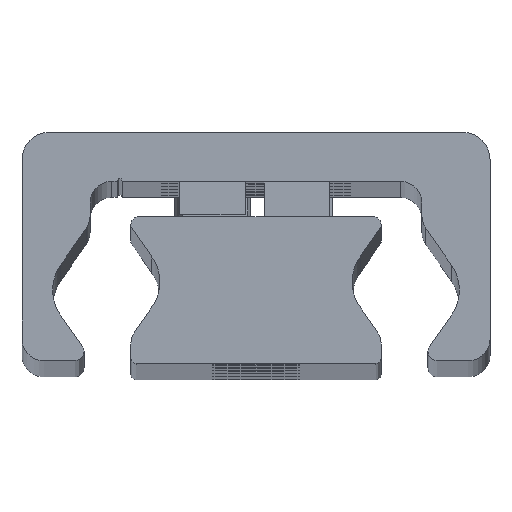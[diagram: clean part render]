
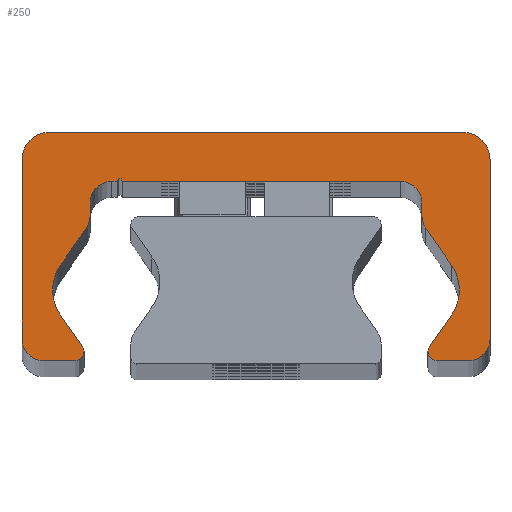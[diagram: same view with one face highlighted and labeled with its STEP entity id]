
A CAD part, top view. The second image highlights one B-rep face of the part: STEP entity #250.
In plain terms, the highlighted planar face has unit normal (0, 0, 1).
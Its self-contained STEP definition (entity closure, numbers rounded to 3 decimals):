
#250=ADVANCED_FACE('',(#672),#673,.T.);
#672=FACE_OUTER_BOUND('',#1095,.T.);
#673=PLANE('',#1096);
#1095=EDGE_LOOP('',(#2530,#2531,#2532,#2533,#2534,#2535,#2536,#2537,#2538,#2539,#2540,#2541,#2542,#2543,#2544,#2545,#2546,#2547,#2548,#2549,#2550,#2551,#2552,#2553,#2554,#2555,#2556,#2557,#2558,#2559));
#1096=AXIS2_PLACEMENT_3D('',#2560,#2561,#2562);
#2530=ORIENTED_EDGE('',*,*,#2849,.F.);
#2531=ORIENTED_EDGE('',*,*,#3062,.F.);
#2532=ORIENTED_EDGE('',*,*,#2835,.F.);
#2533=ORIENTED_EDGE('',*,*,#3061,.F.);
#2534=ORIENTED_EDGE('',*,*,#3057,.F.);
#2535=ORIENTED_EDGE('',*,*,#3054,.F.);
#2536=ORIENTED_EDGE('',*,*,#3051,.F.);
#2537=ORIENTED_EDGE('',*,*,#3048,.F.);
#2538=ORIENTED_EDGE('',*,*,#3045,.F.);
#2539=ORIENTED_EDGE('',*,*,#3042,.F.);
#2540=ORIENTED_EDGE('',*,*,#3039,.F.);
#2541=ORIENTED_EDGE('',*,*,#3036,.F.);
#2542=ORIENTED_EDGE('',*,*,#3033,.F.);
#2543=ORIENTED_EDGE('',*,*,#3030,.F.);
#2544=ORIENTED_EDGE('',*,*,#2841,.F.);
#2545=ORIENTED_EDGE('',*,*,#3028,.F.);
#2546=ORIENTED_EDGE('',*,*,#2843,.F.);
#2547=ORIENTED_EDGE('',*,*,#3027,.F.);
#2548=ORIENTED_EDGE('',*,*,#3023,.F.);
#2549=ORIENTED_EDGE('',*,*,#3020,.F.);
#2550=ORIENTED_EDGE('',*,*,#3017,.F.);
#2551=ORIENTED_EDGE('',*,*,#3014,.F.);
#2552=ORIENTED_EDGE('',*,*,#3011,.F.);
#2553=ORIENTED_EDGE('',*,*,#3008,.F.);
#2554=ORIENTED_EDGE('',*,*,#3005,.F.);
#2555=ORIENTED_EDGE('',*,*,#3002,.F.);
#2556=ORIENTED_EDGE('',*,*,#2999,.F.);
#2557=ORIENTED_EDGE('',*,*,#2996,.F.);
#2558=ORIENTED_EDGE('',*,*,#2993,.F.);
#2559=ORIENTED_EDGE('',*,*,#2990,.F.);
#2560=CARTESIAN_POINT('',(-0.023,14.187,417.0));
#2561=DIRECTION('',(0.0,0.0,1.0));
#2562=DIRECTION('',(1.0,0.0,0.0));
#2835=EDGE_CURVE('',#3446,#3449,#3450,.T.);
#2841=EDGE_CURVE('',#3459,#3455,#3461,.T.);
#2843=EDGE_CURVE('',#3462,#3465,#3466,.T.);
#2849=EDGE_CURVE('',#3475,#3471,#3477,.T.);
#2990=EDGE_CURVE('',#3471,#3704,#3705,.T.);
#2993=EDGE_CURVE('',#3704,#3709,#3710,.T.);
#2996=EDGE_CURVE('',#3709,#3714,#3715,.T.);
#2999=EDGE_CURVE('',#3714,#3719,#3720,.T.);
#3002=EDGE_CURVE('',#3719,#3724,#3725,.T.);
#3005=EDGE_CURVE('',#3724,#3729,#3730,.T.);
#3008=EDGE_CURVE('',#3729,#3734,#3735,.T.);
#3011=EDGE_CURVE('',#3734,#3739,#3740,.T.);
#3014=EDGE_CURVE('',#3739,#3744,#3745,.T.);
#3017=EDGE_CURVE('',#3744,#3749,#3750,.T.);
#3020=EDGE_CURVE('',#3749,#3754,#3755,.T.);
#3023=EDGE_CURVE('',#3754,#3759,#3760,.T.);
#3027=EDGE_CURVE('',#3759,#3462,#3765,.T.);
#3028=EDGE_CURVE('',#3465,#3459,#3766,.T.);
#3030=EDGE_CURVE('',#3455,#3768,#3769,.T.);
#3033=EDGE_CURVE('',#3768,#3773,#3774,.T.);
#3036=EDGE_CURVE('',#3773,#3778,#3779,.T.);
#3039=EDGE_CURVE('',#3778,#3783,#3784,.T.);
#3042=EDGE_CURVE('',#3783,#3788,#3789,.T.);
#3045=EDGE_CURVE('',#3788,#3793,#3794,.T.);
#3048=EDGE_CURVE('',#3793,#3798,#3799,.T.);
#3051=EDGE_CURVE('',#3798,#3803,#3804,.T.);
#3054=EDGE_CURVE('',#3803,#3808,#3809,.T.);
#3057=EDGE_CURVE('',#3808,#3813,#3814,.T.);
#3061=EDGE_CURVE('',#3813,#3446,#3819,.T.);
#3062=EDGE_CURVE('',#3449,#3475,#3820,.T.);
#3446=VERTEX_POINT('',#4330);
#3449=VERTEX_POINT('',#4334);
#3450=CIRCLE('',#4335,0.85);
#3455=VERTEX_POINT('',#4341);
#3459=VERTEX_POINT('',#4346);
#3461=CIRCLE('',#4349,0.85);
#3462=VERTEX_POINT('',#4350);
#3465=VERTEX_POINT('',#4354);
#3466=CIRCLE('',#4355,4.);
#3471=VERTEX_POINT('',#4361);
#3475=VERTEX_POINT('',#4366);
#3477=CIRCLE('',#4369,4.);
#3704=VERTEX_POINT('',#4666);
#3705=CIRCLE('',#4667,4.);
#3709=VERTEX_POINT('',#4672);
#3710=LINE('',#4673,#4674);
#3714=VERTEX_POINT('',#4680);
#3715=CIRCLE('',#4681,2.);
#3719=VERTEX_POINT('',#4686);
#3720=LINE('',#4687,#4688);
#3724=VERTEX_POINT('',#4694);
#3725=CIRCLE('',#4695,2.0);
#3729=VERTEX_POINT('',#4700);
#3730=LINE('',#4701,#4702);
#3734=VERTEX_POINT('',#4708);
#3735=CIRCLE('',#4709,0.25);
#3739=VERTEX_POINT('',#4714);
#3740=LINE('',#4715,#4716);
#3744=VERTEX_POINT('',#4722);
#3745=CIRCLE('',#4723,2.0);
#3749=VERTEX_POINT('',#4728);
#3750=LINE('',#4729,#4730);
#3754=VERTEX_POINT('',#4736);
#3755=CIRCLE('',#4737,2.0);
#3759=VERTEX_POINT('',#4742);
#3760=LINE('',#4743,#4744);
#3765=CIRCLE('',#4751,4.);
#3766=LINE('',#4752,#4753);
#3768=VERTEX_POINT('',#4756);
#3769=CIRCLE('',#4757,0.85);
#3773=VERTEX_POINT('',#4762);
#3774=LINE('',#4763,#4764);
#3778=VERTEX_POINT('',#4770);
#3779=CIRCLE('',#4771,2.);
#3783=VERTEX_POINT('',#4776);
#3784=LINE('',#4777,#4778);
#3788=VERTEX_POINT('',#4784);
#3789=CIRCLE('',#4785,2.5);
#3793=VERTEX_POINT('',#4790);
#3794=LINE('',#4791,#4792);
#3798=VERTEX_POINT('',#4798);
#3799=CIRCLE('',#4799,2.5);
#3803=VERTEX_POINT('',#4804);
#3804=LINE('',#4805,#4806);
#3808=VERTEX_POINT('',#4812);
#3809=CIRCLE('',#4813,2.);
#3813=VERTEX_POINT('',#4818);
#3814=LINE('',#4819,#4820);
#3819=CIRCLE('',#4827,0.85);
#3820=LINE('',#4828,#4829);
#4330=CARTESIAN_POINT('',(15.8,1.859,417.0));
#4334=CARTESIAN_POINT('',(15.922,2.298,417.0));
#4335=AXIS2_PLACEMENT_3D('',#5295,#5296,#5297);
#4341=CARTESIAN_POINT('',(-15.8,1.859,417.0));
#4346=CARTESIAN_POINT('',(-15.922,2.298,417.0));
#4349=AXIS2_PLACEMENT_3D('',#5307,#5308,#5309);
#4350=CARTESIAN_POINT('',(-18.688,7.509,417.0));
#4354=CARTESIAN_POINT('',(-17.964,5.214,417.0));
#4355=AXIS2_PLACEMENT_3D('',#5311,#5312,#5313);
#4361=CARTESIAN_POINT('',(18.688,7.509,417.0));
#4366=CARTESIAN_POINT('',(17.964,5.214,417.0));
#4369=AXIS2_PLACEMENT_3D('',#5323,#5324,#5325);
#4666=CARTESIAN_POINT('',(17.964,9.803,417.0));
#4667=AXIS2_PLACEMENT_3D('',#5606,#5607,#5608);
#4672=CARTESIAN_POINT('',(15.612,13.163,417.0));
#4673=CARTESIAN_POINT('',(15.612,13.163,417.0));
#4674=VECTOR('',#5613,1.0);
#4680=CARTESIAN_POINT('',(15.25,14.31,417.0));
#4681=AXIS2_PLACEMENT_3D('',#5616,#5617,#5618);
#4686=CARTESIAN_POINT('',(15.25,15.509,417.0));
#4687=CARTESIAN_POINT('',(15.25,15.509,417.0));
#4688=VECTOR('',#5623,1.0);
#4694=CARTESIAN_POINT('',(13.25,17.509,417.0));
#4695=AXIS2_PLACEMENT_3D('',#5626,#5627,#5628);
#4700=CARTESIAN_POINT('',(-12.25,17.509,417.0));
#4701=CARTESIAN_POINT('',(-12.25,17.509,417.0));
#4702=VECTOR('',#5633,1.0);
#4708=CARTESIAN_POINT('',(-12.75,17.509,417.0));
#4709=AXIS2_PLACEMENT_3D('',#5636,#5637,#5638);
#4714=CARTESIAN_POINT('',(-13.25,17.509,417.0));
#4715=CARTESIAN_POINT('',(-13.25,17.509,417.0));
#4716=VECTOR('',#5643,1.0);
#4722=CARTESIAN_POINT('',(-15.25,15.509,417.0));
#4723=AXIS2_PLACEMENT_3D('',#5646,#5647,#5648);
#4728=CARTESIAN_POINT('',(-15.25,14.31,417.0));
#4729=CARTESIAN_POINT('',(-15.25,14.31,417.0));
#4730=VECTOR('',#5653,1.0);
#4736=CARTESIAN_POINT('',(-15.612,13.163,417.0));
#4737=AXIS2_PLACEMENT_3D('',#5656,#5657,#5658);
#4742=CARTESIAN_POINT('',(-17.964,9.803,417.0));
#4743=CARTESIAN_POINT('',(-17.964,9.803,417.0));
#4744=VECTOR('',#5663,1.);
#4751=AXIS2_PLACEMENT_3D('',#5669,#5670,#5671);
#4752=CARTESIAN_POINT('',(-15.922,2.298,417.0));
#4753=VECTOR('',#5672,1.0);
#4756=CARTESIAN_POINT('',(-16.65,1.009,417.0));
#4757=AXIS2_PLACEMENT_3D('',#5674,#5675,#5676);
#4762=CARTESIAN_POINT('',(-19.5,1.009,417.0));
#4763=CARTESIAN_POINT('',(-19.5,1.009,417.0));
#4764=VECTOR('',#5681,1.0);
#4770=CARTESIAN_POINT('',(-21.5,3.009,417.0));
#4771=AXIS2_PLACEMENT_3D('',#5684,#5685,#5686);
#4776=CARTESIAN_POINT('',(-21.5,19.509,417.0));
#4777=CARTESIAN_POINT('',(-21.5,19.509,417.0));
#4778=VECTOR('',#5691,1.0);
#4784=CARTESIAN_POINT('',(-19.0,22.009,417.0));
#4785=AXIS2_PLACEMENT_3D('',#5694,#5695,#5696);
#4790=CARTESIAN_POINT('',(19.0,22.009,417.0));
#4791=CARTESIAN_POINT('',(19.0,22.009,417.0));
#4792=VECTOR('',#5701,1.0);
#4798=CARTESIAN_POINT('',(21.5,19.509,417.0));
#4799=AXIS2_PLACEMENT_3D('',#5704,#5705,#5706);
#4804=CARTESIAN_POINT('',(21.5,3.009,417.0));
#4805=CARTESIAN_POINT('',(21.5,3.009,417.0));
#4806=VECTOR('',#5711,1.0);
#4812=CARTESIAN_POINT('',(19.5,1.009,417.0));
#4813=AXIS2_PLACEMENT_3D('',#5714,#5715,#5716);
#4818=CARTESIAN_POINT('',(16.65,1.009,417.0));
#4819=CARTESIAN_POINT('',(16.65,1.009,417.0));
#4820=VECTOR('',#5721,1.0);
#4827=AXIS2_PLACEMENT_3D('',#5727,#5728,#5729);
#4828=CARTESIAN_POINT('',(17.964,5.214,417.0));
#4829=VECTOR('',#5730,1.0);
#5295=CARTESIAN_POINT('',(16.65,1.859,417.0));
#5296=DIRECTION('',(0.0,0.0,-1.0));
#5297=DIRECTION('',(1.0,0.0,0.0));
#5307=CARTESIAN_POINT('',(-16.65,1.859,417.0));
#5308=DIRECTION('',(0.0,0.0,-1.0));
#5309=DIRECTION('',(1.0,0.0,0.0));
#5311=CARTESIAN_POINT('',(-14.688,7.509,417.0));
#5312=DIRECTION('',(0.0,0.0,1.0));
#5313=DIRECTION('',(1.0,0.0,0.0));
#5323=CARTESIAN_POINT('',(14.688,7.509,417.0));
#5324=DIRECTION('',(0.0,0.0,1.0));
#5325=DIRECTION('',(1.0,0.0,0.0));
#5606=CARTESIAN_POINT('',(14.688,7.509,417.0));
#5607=DIRECTION('',(0.0,0.0,1.0));
#5608=DIRECTION('',(1.0,0.0,0.0));
#5613=DIRECTION('',(-0.574,0.819,0.0));
#5616=CARTESIAN_POINT('',(17.25,14.31,417.0));
#5617=DIRECTION('',(0.0,0.0,-1.0));
#5618=DIRECTION('',(1.0,0.0,0.0));
#5623=DIRECTION('',(0.0,1.0,0.0));
#5626=CARTESIAN_POINT('',(13.25,15.509,417.0));
#5627=DIRECTION('',(0.0,0.0,1.0));
#5628=DIRECTION('',(1.0,0.0,0.0));
#5633=DIRECTION('',(-1.0,-0.0,-0.0));
#5636=CARTESIAN_POINT('',(-12.5,17.509,417.0));
#5637=DIRECTION('',(0.0,0.0,1.0));
#5638=DIRECTION('',(1.0,0.0,0.0));
#5643=DIRECTION('',(-1.0,-0.0,-0.0));
#5646=CARTESIAN_POINT('',(-13.25,15.509,417.0));
#5647=DIRECTION('',(0.0,0.0,1.0));
#5648=DIRECTION('',(1.0,0.0,0.0));
#5653=DIRECTION('',(-0.0,-1.0,-0.0));
#5656=CARTESIAN_POINT('',(-17.25,14.31,417.0));
#5657=DIRECTION('',(0.0,0.0,-1.0));
#5658=DIRECTION('',(1.0,0.0,0.0));
#5663=DIRECTION('',(-0.574,-0.819,-0.0));
#5669=CARTESIAN_POINT('',(-14.688,7.509,417.0));
#5670=DIRECTION('',(0.0,0.0,1.0));
#5671=DIRECTION('',(1.0,0.0,0.0));
#5672=DIRECTION('',(0.574,-0.819,0.0));
#5674=CARTESIAN_POINT('',(-16.65,1.859,417.0));
#5675=DIRECTION('',(0.0,0.0,-1.0));
#5676=DIRECTION('',(1.0,0.0,0.0));
#5681=DIRECTION('',(-1.0,-0.0,-0.0));
#5684=CARTESIAN_POINT('',(-19.5,3.009,417.0));
#5685=DIRECTION('',(0.0,0.0,-1.0));
#5686=DIRECTION('',(1.0,0.0,0.0));
#5691=DIRECTION('',(0.0,1.0,0.0));
#5694=CARTESIAN_POINT('',(-19.0,19.509,417.0));
#5695=DIRECTION('',(0.0,0.0,-1.0));
#5696=DIRECTION('',(1.0,0.0,0.0));
#5701=DIRECTION('',(1.0,0.0,0.0));
#5704=CARTESIAN_POINT('',(19.0,19.509,417.0));
#5705=DIRECTION('',(0.0,0.0,-1.0));
#5706=DIRECTION('',(1.0,0.0,0.0));
#5711=DIRECTION('',(-0.0,-1.0,-0.0));
#5714=CARTESIAN_POINT('',(19.5,3.009,417.0));
#5715=DIRECTION('',(0.0,0.0,-1.0));
#5716=DIRECTION('',(1.0,0.0,0.0));
#5721=DIRECTION('',(-1.0,-0.0,-0.0));
#5727=CARTESIAN_POINT('',(16.65,1.859,417.0));
#5728=DIRECTION('',(0.0,0.0,-1.0));
#5729=DIRECTION('',(1.0,0.0,0.0));
#5730=DIRECTION('',(0.574,0.819,0.0));
